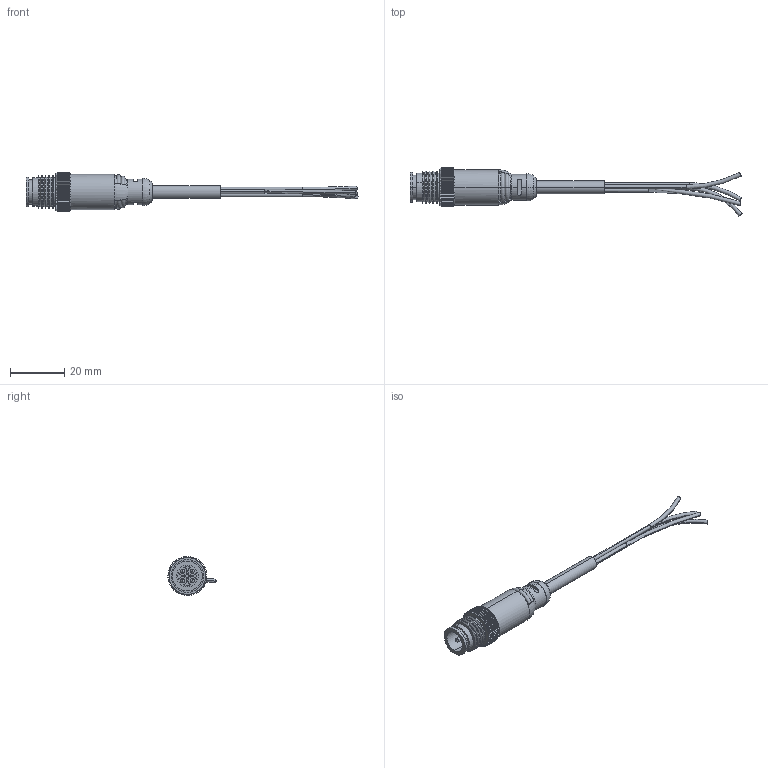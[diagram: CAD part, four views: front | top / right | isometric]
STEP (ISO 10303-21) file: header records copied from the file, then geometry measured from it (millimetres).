
FILE_DESCRIPTION (( 'STEP AP214' ), '1' );
FILE_NAME ('M-624-PM3-R.STEP', '2025-12-29T09:24:43', ( '' ), ( '' ), 'SwSTEP 2.0', 'SolidWorks 2021', '' );
FILE_SCHEMA (( 'AUTOMOTIVE_DESIGN' ));
Length unit declared in the file: millimetre
Products named in the file (1): M-624-PM3-R
Bounding box: 122.08 x 17.69 x 14.29 mm (x, y, z)
Volume: 4457.6 mm3; surface area: 6423.2 mm2
Topology: 7 solids, 7 shells, 714 faces, 1996 edges, 1283 vertices
Faces by surface type: plane 428, cylinder 188, torus 40, bspline 28, cone 22, sphere 8
Entity records: 31817 total; most frequent: CARTESIAN_POINT 5731, ORIENTED_EDGE 3944, DIRECTION 3732, EDGE_CURVE 1972, AXIS2_PLACEMENT_3D 1413, VERTEX_POINT 1283, LINE 906, VECTOR 906
